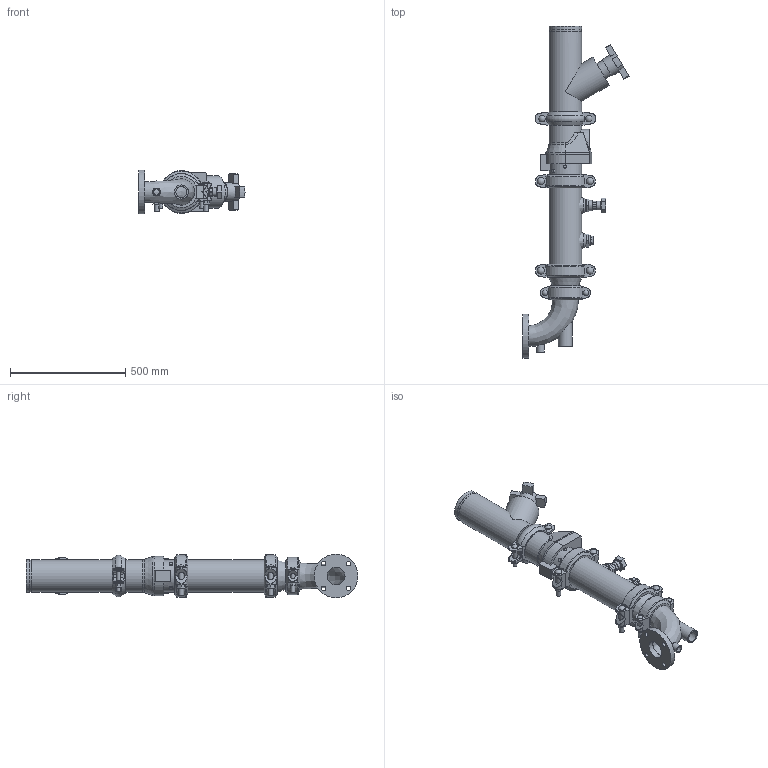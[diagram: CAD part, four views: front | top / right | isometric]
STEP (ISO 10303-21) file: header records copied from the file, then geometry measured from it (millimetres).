
FILE_DESCRIPTION(/* description */ ('VIC DVI PUMP DROP HORZ S/383 (OGSxFLG) (S/924-1.25)','CAx-IF Rec.Pracs.---Representation and Presentation of Product Manufacturing Information (PMI)---4.0---2014-10-13'),/* implementation_level */ '2;1');
FILE_NAME(/* name */ 'C:\Users\Vjadhav\AppData\Roaming\Autodesk\ApplicationPlugins\Victaulic.Temp\A892\Victaulic_IPS_Horizontal DVI_CL 150_Series 383 (OGSxFLG)_924 (1.25)_05.0x03.0 (125x80).stp',/* time_stamp */ '2022-02-28T15:43:28+05:00',/* author */ ('kkamble'),/* organization */ ('Victaulic'),/* preprocessor_version */ 'ST-DEVELOPER v17.2',/* originating_system */ 'Autodesk Inventor 2019',/* authorisation */ '');
FILE_SCHEMA (('AP242_MANAGED_MODEL_BASED_3D_ENGINEERING_MIM_LF { 1 0 10303 442 1 1 4 }'));
Length unit declared in the file: inch
Products named in the file (11): 383-924 (1.25)-05.0x03.0; Pipe-05.0x03.0; 177N-05.0; 107N-05.0; 789-05.0; 779-05.0; 924-04.0x01.25; 923-04.0x0.75; R100F-04.0x03.0; 177N-04.0; 050-05.0x04.0
Assembly tree (11 placements, depth 2):
  383-924 (1.25)-05.0x03.0
    177N-05.0  x2
    Pipe-05.0x03.0
    107N-05.0
    789-05.0
    779-05.0
    924-04.0x01.25
    923-04.0x0.75
    R100F-04.0x03.0
    177N-04.0
    050-05.0x04.0
Bounding box: 460.5 x 1441.45 x 190.5 mm (x, y, z)
Volume: 11453889.7 mm3; surface area: 1956624.8 mm2
Topology: 11 solids, 12 shells, 680 faces, 1808 edges, 1207 vertices
Faces by surface type: plane 372, cylinder 231, torus 24, cone 23, bspline 22, sphere 8
Full cylindrical faces by diameter (mm): 13.716 x4, 15.875 x4, 17.424 x2, 19.05 x4, 21.209 x4, 21.336 x1, 23.495 x2, 26.67 x3, 27.381 x2, 30.48 x4, 34.29 x1, 38.608 x1, 42.164 x1, 45.974 x4, 48.26 x1, 48.514 x1, 55.626 x2, 60.96 x1, 75.26 x1, 77.927 x1, 82.55 x1, 101.6 x1, 102.26 x2, 110.084 x2, 114.3 x5, 128.194 x4, 128.6 x3, 137.033 x7, 141.3 x19, 190.5 x1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
Entity records: 21596 total; most frequent: CARTESIAN_POINT 5553, DIRECTION 3261, ORIENTED_EDGE 3102, EDGE_CURVE 1551, AXIS2_PLACEMENT_3D 1230, VERTEX_POINT 1035, LINE 801, VECTOR 801
